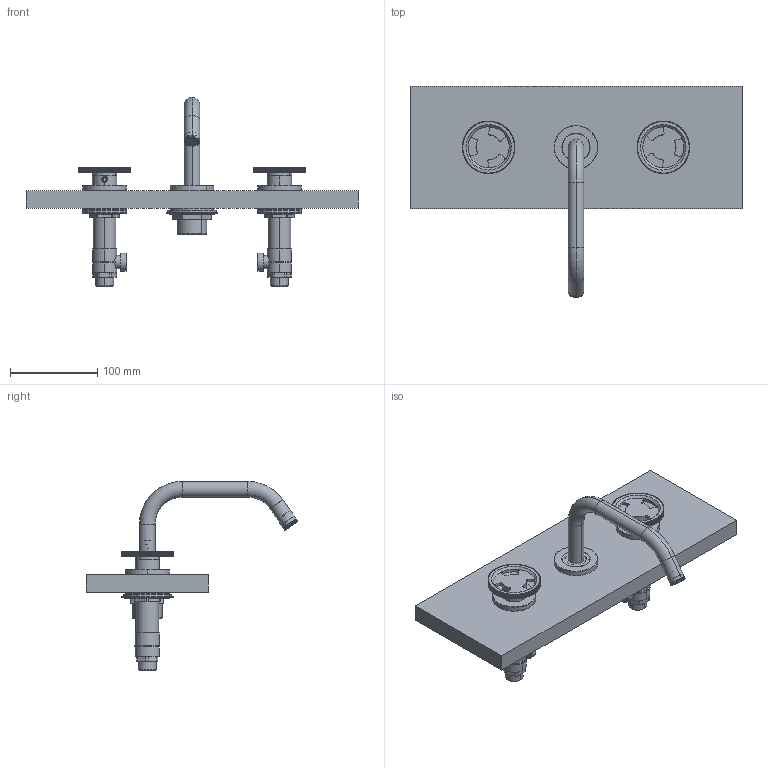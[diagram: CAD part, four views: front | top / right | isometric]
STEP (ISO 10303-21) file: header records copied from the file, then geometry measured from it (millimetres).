
FILE_DESCRIPTION (( 'STEP AP203' ), '1' );
FILE_NAME ('TIB52C.STEP', '2018-05-31T12:15:04', ( '' ), ( '' ), 'SwSTEP 2.0', 'SolidWorks 2014', '' );
FILE_SCHEMA (( 'CONFIG_CONTROL_DESIGN' ));
Length unit declared in the file: millimetre
Products named in the file (32): RONDG50272; RONDIX5027; EU0648_1; EU1478_1; eu01_dado_esa_x_codolo; TAPPHITO01; eu01_rondella_gomma; OR212ACS; CTO1C; FISS_PIANT; EU1473_1; AS542_01; EU1464_1; EU0029_1; GRANCO M4x3 ACCIAIO; eu01_flangia_sagomata; eu01_rondella_gomma_spugna; OR992262ACS; RONDG50342; TOP X 3 FORI  BAGNO 100; AERA161INC; EU1474_1; EU1472_0; GRANCO M5x6 ACCIAIO; EU1477_1; FISSGECO001; AS544_00; PIANTL2619; VITOCER002; EU0649_0; DADO2619H5; TIB52C
Assembly tree (35 placements, depth 4):
  TIB52C
    TOP X 3 FORI  BAGNO 100
    AS544_00  x2
      PIANTL2619
      VITOCER002
      EU1477_1
      GRANCO M5x6 ACCIAIO
      AS542_01
        EU1474_1
        EU1464_1
      EU1478_1
      TAPPHITO01
    CTO1C
      EU0029_1
      OR212ACS
      EU1473_1
      EU1472_0
      EU0648_1
      EU0649_0  x2
      OR992262ACS  x2
      GRANCO M4x3 ACCIAIO
      AERA161INC
    FISS_PIANT  x2
      DADO2619H5
      RONDIX5027
      RONDG50342
      RONDG50272
    FISSGECO001
      eu01_flangia_sagomata
      eu01_rondella_gomma
      eu01_rondella_gomma_spugna
      eu01_dado_esa_x_codolo
Bounding box: 380 x 242.35 x 216.47 mm (x, y, z)
Volume: 1256274 mm3; surface area: 287934.5 mm2
Topology: 40 solids, 40 shells, 2727 faces, 7368 edges, 4806 vertices
Faces by surface type: plane 1457, cylinder 938, cone 222, torus 60, bspline 38, sphere 12
Entity records: 54186 total; most frequent: CARTESIAN_POINT 11397, DIRECTION 8433, ORIENTED_EDGE 8160, EDGE_CURVE 4080, AXIS2_PLACEMENT_3D 2918, VERTEX_POINT 2653, LINE 2597, VECTOR 2597
